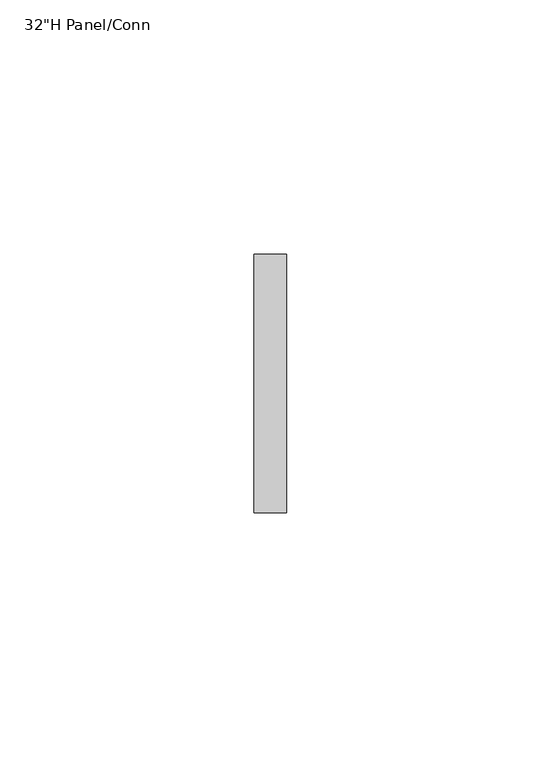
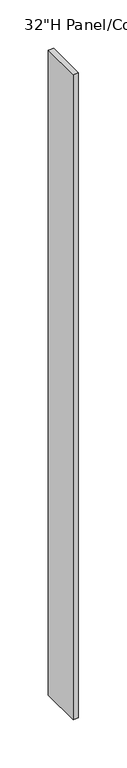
"""IFC4 building model written with IfcOpenShell, lengths in millimetres: furniture geometry."""

import ifcopenshell
import ifcopenshell.guid

model = None  # the IFC model being written
_history = None  # IfcOwnerHistory: only IFC2X3 demands one
_inside = {}  # id of a spatial element -> (the spatial element, [elements in it])
_under = {}  # id of a project, library or spatial element -> (it, [spatial elements below it])
_declared = {}  # id of a project -> (the project, [libraries it declares])
_typed = {}  # id of a type object -> (the type object, [elements of that type])
_made_of = {}  # id of a material, layer set ... -> (it, [elements and type objects made of it])


def new_model(schema):
    """Start an empty IFC model of exactly this schema.

    Asked for "IFC4X3", IfcOpenShell would pick the latest addendum, in which some entities
    have other attributes; the version numbers below select the first issue.
    IFC2X3 requires an IfcOwnerHistory on every rooted entity: one is made here for all.
    """
    global model, _history
    if schema == "IFC4X3":
        model = ifcopenshell.file(schema_version=(4, 3, 0, 0))
    else:
        model = ifcopenshell.file(schema=schema)
    _inside.clear()
    _under.clear()
    _declared.clear()
    _typed.clear()
    _made_of.clear()
    _history = None
    if model.schema == "IFC2X3":
        org = make("IfcOrganization", Name="unknown")
        user = make(
            "IfcPersonAndOrganization",
            ThePerson=make("IfcPerson", FamilyName="unknown"),
            TheOrganization=org,
        )
        app = make(
            "IfcApplication",
            ApplicationDeveloper=org,
            Version="unknown",
            ApplicationFullName="unknown",
            ApplicationIdentifier="unknown",
        )
        _history = make(
            "IfcOwnerHistory",
            OwningUser=user,
            OwningApplication=app,
            ChangeAction="ADDED",
            CreationDate=0,
        )
    return model


def make(cls, **values):
    """One entity of the class cls with the attributes given. An attribute that is None is left unset."""
    return model.create_entity(
        cls, **{name: value for name, value in values.items() if value is not None}
    )


def rooted(cls, **values):
    """An entity with a GlobalId (a new one), such as an element, a storey or a relation."""
    return make(cls, GlobalId=ifcopenshell.guid.new(), OwnerHistory=_history, **values)


def si_unit(unit_type, name, prefix=None):
    """IfcSIUnit, for example si_unit("LENGTHUNIT", "METRE", prefix="MILLI")."""
    return make("IfcSIUnit", UnitType=unit_type, Prefix=prefix, Name=name)


def assignment(units):
    """IfcUnitAssignment: the units of a project."""
    return None if units is None else make("IfcUnitAssignment", Units=units)


def point(xyz):
    """IfcCartesianPoint."""
    return None if xyz is None else make("IfcCartesianPoint", Coordinates=xyz)


def direction(xyz):
    """IfcDirection."""
    return None if xyz is None else make("IfcDirection", DirectionRatios=xyz)


def frame(location, z_axis=None, x_axis=None):
    """IfcAxis2Placement3D, a coordinate frame: its origin and axes. An axis left out is left unset."""
    return make(
        "IfcAxis2Placement3D",
        Location=point(location),
        Axis=direction(z_axis),
        RefDirection=direction(x_axis),
    )


def origin():
    """The frame at (0, 0, 0) with its axes left unset."""
    return frame((0.0, 0.0, 0.0))


def place(relative_to, where):
    """IfcLocalPlacement: puts the frame where relative to a parent placement (None: the world)."""
    return make(
        "IfcLocalPlacement", PlacementRelTo=relative_to, RelativePlacement=where
    )


def context(
    kind, dimensions, precision=None, world=None, true_north=None, identifier=None
):
    """IfcGeometricRepresentationContext, for example the 3D "Model" context."""
    return make(
        "IfcGeometricRepresentationContext",
        ContextIdentifier=identifier,
        ContextType=kind,
        CoordinateSpaceDimension=dimensions,
        Precision=precision,
        WorldCoordinateSystem=world,
        TrueNorth=true_north,
    )


def project(units=None, contexts=None):
    """IfcProject with its units and contexts."""
    return rooted(
        "IfcProject",
        Name="project",
        RepresentationContexts=contexts,
        UnitsInContext=assignment(units),
    )


def spatial(cls, under=None, at=None, **own):
    """A site, building, storey or space (cls), placed at a placement, below another one or the project."""
    s = rooted(cls, ObjectPlacement=at, **own)
    if under is not None:
        _under.setdefault(under.id(), (under, []))[1].append(s)
    return s


def polyline(points):
    """IfcPolyline through the points."""
    return make("IfcPolyline", Points=[point(p) for p in points])


def outline(outer, holes=None, kind="AREA"):
    """IfcArbitraryClosedProfileDef: a profile drawn as a closed curve; with holes, ...WithVoids."""
    if holes is None:
        return make("IfcArbitraryClosedProfileDef", ProfileType=kind, OuterCurve=outer)
    return make(
        "IfcArbitraryProfileDefWithVoids",
        ProfileType=kind,
        OuterCurve=outer,
        InnerCurves=holes,
    )


def extrude(swept, where, along, depth):
    """IfcExtrudedAreaSolid: the profile swept, set in the frame where, extruded along a direction by depth."""
    return make(
        "IfcExtrudedAreaSolid",
        SweptArea=swept,
        Position=where,
        ExtrudedDirection=direction(along),
        Depth=depth,
    )


def shape(context_of_items, identifier, shape_type, items):
    """IfcShapeRepresentation: the items that make up one representation, for example the "Body"."""
    return make(
        "IfcShapeRepresentation",
        ContextOfItems=context_of_items,
        RepresentationIdentifier=identifier,
        RepresentationType=shape_type,
        Items=items,
    )


def source(mapping_origin, context_of_items, identifier, shape_type, items):
    """IfcRepresentationMap: a shape defined once, which mapped items show again and again."""
    return make(
        "IfcRepresentationMap",
        MappingOrigin=mapping_origin,
        MappedRepresentation=shape(context_of_items, identifier, shape_type, items),
    )


def transform(
    local_origin,
    x_axis=None,
    y_axis=None,
    z_axis=None,
    scale=None,
    scale2=None,
    scale3=None,
    uniform=True,
):
    """IfcCartesianTransformationOperator3D, or its non-uniform kind. x_axis, y_axis, z_axis: its Axis1, 2, 3."""
    if uniform:
        return make(
            "IfcCartesianTransformationOperator3D",
            Axis1=direction(x_axis),
            Axis2=direction(y_axis),
            LocalOrigin=point(local_origin),
            Scale=scale,
            Axis3=direction(z_axis),
        )
    return make(
        "IfcCartesianTransformationOperator3DnonUniform",
        Axis1=direction(x_axis),
        Axis2=direction(y_axis),
        LocalOrigin=point(local_origin),
        Scale=scale,
        Axis3=direction(z_axis),
        Scale2=scale2,
        Scale3=scale3,
    )


def mapped(mapping_source, mapping_target):
    """IfcMappedItem: shows the shape of a source again, moved by a transform."""
    return make(
        "IfcMappedItem", MappingSource=mapping_source, MappingTarget=mapping_target
    )


def made_of(thing, what):
    """Note that an element or type object is made of a material, layer set ...; save() writes the relation."""
    if what is not None:
        _made_of.setdefault(what.id(), (what, []))[1].append(thing)
    return thing


def element(
    cls,
    number,
    at=None,
    inside=None,
    cuts=None,
    type_object=None,
    material=None,
    context=None,
    identifier="Body",
    shape_type=None,
    held_by="IfcProductDefinitionShape",
    body=None,
    shapes=None,
    **own,
):
    """One element of the class cls, such as IfcWall. Its Tag is "e" and its number.

    at: its placement. inside: the storey or other place that contains it. cuts: it is an
    opening in that element (IfcRelVoidsElement). A single representation is given by context,
    identifier, shape_type and body (its items); several are given by shapes. held_by: the class
    of the entity that holds the representations. save() writes the other relations.
    """
    e = rooted(cls, Tag="e%d" % number, ObjectPlacement=at, **own)
    if body is not None:
        shapes = [shape(context, identifier, shape_type, body)]
    if shapes is not None:
        e.Representation = make(held_by, Representations=shapes)
    if inside is not None:
        _inside.setdefault(inside.id(), (inside, []))[1].append(e)
    if cuts is not None:
        rooted(
            "IfcRelVoidsElement", RelatingBuildingElement=cuts, RelatedOpeningElement=e
        )
    if type_object is not None:
        _typed.setdefault(type_object.id(), (type_object, []))[1].append(e)
    return made_of(e, material)


def aggregate(whole, parts):
    """IfcRelAggregates: a whole, such as a stair, and the parts it consists of."""
    return rooted("IfcRelAggregates", RelatingObject=whole, RelatedObjects=parts)


def save(model, path):
    """Write the relations noted so far, then the file.

    IfcRelAggregates (storeys below a building ...), IfcRelContainedInSpatialStructure (elements
    in a storey), IfcRelDefinesByType, IfcRelAssociatesMaterial and IfcRelDeclares: one each for
    every whole, place, type object, material and project.
    """
    for whole, parts in _under.values():
        aggregate(whole, parts)
    for where, things in _inside.values():
        rooted(
            "IfcRelContainedInSpatialStructure",
            RelatedElements=things,
            RelatingStructure=where,
        )
    for kind, things in _typed.values():
        rooted("IfcRelDefinesByType", RelatedObjects=things, RelatingType=kind)
    for what, things in _made_of.values():
        rooted("IfcRelAssociatesMaterial", RelatedObjects=things, RelatingMaterial=what)
    for by, libraries in _declared.values():
        rooted("IfcRelDeclares", RelatingContext=by, RelatedDefinitions=libraries)
    model.write(path)


def furniture_fb8f7aeb(model_context):
    return source(origin(), model_context, "Body", "SweptSolid", [
        extrude(outline(polyline([(-60.5209988, 104.9709924), (-60.5209967, 54.1709916), (-66.8709967, 54.1709914), (-66.8709988, 104.9709922), (-60.5209988, 104.9709924)])), frame((0.0, 0.0, 1355.7250008), z_axis=(0.0, 0.0, 1.0), x_axis=(1.0, 0.0, 0.0)), (0.0, 0.0, 1.0), 812.8),
    ])


if __name__ == "__main__":
    model = new_model("IFC4")
    model_context = context("Model", 3, world=origin())
    ifc_project = project(units=[si_unit("LENGTHUNIT", "METRE", prefix="MILLI")], contexts=[model_context])
    site = spatial("IfcSite", under=ifc_project)
    building = spatial("IfcBuilding", under=site)
    placement = place(None, origin())
    furniture_shape = furniture_fb8f7aeb(model_context)
    element("IfcFurniture", 1, ObjectType="HermanMiller_ActionOffice_AO259_AO272_FinishedEndChangeOfHeight : 32\"H Panel/Conn", at=placement, inside=building, context=model_context, shape_type="MappedRepresentation", body=[
        mapped(furniture_shape, transform((0.0, 0.0, 0.0), x_axis=(1.0, 0.0, 0.0), y_axis=(0.0, 1.0, 0.0), z_axis=(0.0, 0.0, 1.0))),
    ])
    save(model, "model.ifc")
